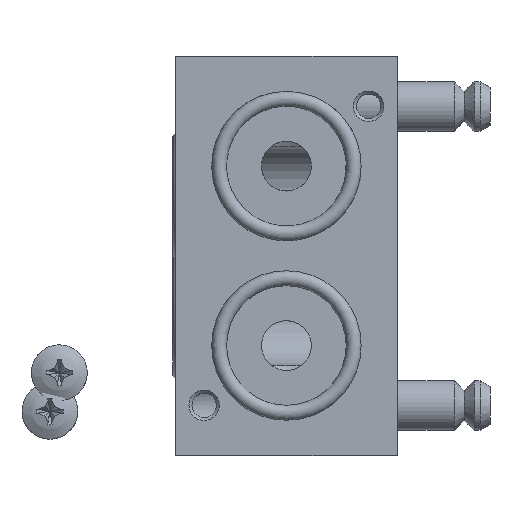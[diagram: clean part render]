
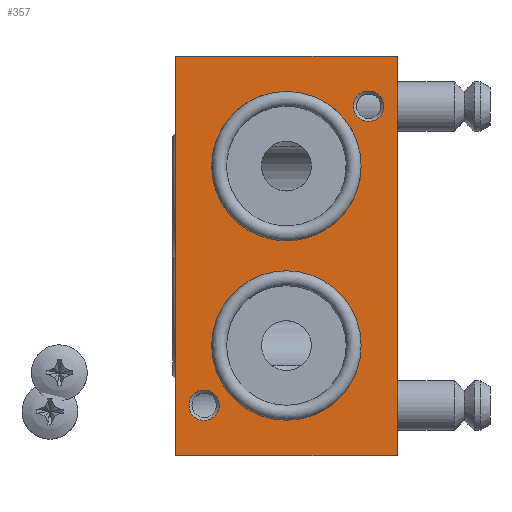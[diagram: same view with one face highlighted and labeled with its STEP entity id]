
A CAD part, top view. The second image highlights one B-rep face of the part: STEP entity #357.
In plain terms, the highlighted planar face has unit normal (0, 0, 1).
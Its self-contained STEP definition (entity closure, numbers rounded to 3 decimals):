
#333 = EDGE_CURVE( '    LINE', #722, #718, #723, .T. );
#357 = ADVANCED_FACE( '    FACE', ( #759, #760, #761, #762, #763 ), #764, .F. );
#368 = EDGE_CURVE( '     ARC', #784, #784, #785, .T. );
#460 = EDGE_CURVE( '     ARC', #936, #936, #937, .T. );
#543 = EDGE_CURVE( '    LINE', #793, #722, #1070, .T. );
#551 = EDGE_CURVE( '    LINE', #718, #999, #1081, .T. );
#606 = EDGE_CURVE( '    LINE', #999, #793, #1167, .T. );
#718 = VERTEX_POINT( '', #1242 );
#722 = VERTEX_POINT( '', #1248 );
#723 = LINE( '', #1249, #1250 );
#759 = FACE_BOUND( '', #1294, .T. );
#760 = FACE_BOUND( '', #1295, .T. );
#761 = FACE_OUTER_BOUND( '', #1296, .T. );
#762 = FACE_BOUND( '', #1297, .T. );
#763 = FACE_BOUND( '', #1298, .T. );
#764 = PLANE( '', #1299 );
#784 = VERTEX_POINT( '', #1324 );
#785 = CIRCLE( '', #1325, 7.5 );
#793 = VERTEX_POINT( '', #1336 );
#936 = VERTEX_POINT( '', #1602 );
#937 = CIRCLE( '', #1603, 7.5 );
#999 = VERTEX_POINT( '', #1677 );
#1070 = LINE( '', #1882, #1883 );
#1081 = LINE( '', #1906, #1907 );
#1167 = LINE( '', #2057, #2058 );
#1242 = CARTESIAN_POINT( '', ( 0.125, 19., -16. ) );
#1248 = CARTESIAN_POINT( '', ( -22.125, 19., -16. ) );
#1249 = CARTESIAN_POINT( '', ( -22.125, 19., -16. ) );
#1250 = VECTOR( '', #2194, 1000. );
#1294 = EDGE_LOOP( '', ( #2244 ) );
#1295 = EDGE_LOOP( '', ( #2245 ) );
#1296 = EDGE_LOOP( '', ( #2246, #2247, #2248, #2249 ) );
#1297 = EDGE_LOOP( '', ( #2250 ) );
#1298 = EDGE_LOOP( '', ( #2251 ) );
#1299 = AXIS2_PLACEMENT_3D( '', #2252, #2253, #2254 );
#1324 = CARTESIAN_POINT( '', ( -18.5, 8., -16. ) );
#1325 = AXIS2_PLACEMENT_3D( '', #2277, #2278, #2279 );
#1336 = CARTESIAN_POINT( '', ( -22.125, -21., -16. ) );
#1602 = CARTESIAN_POINT( '', ( -18.5, -10., -16. ) );
#1603 = AXIS2_PLACEMENT_3D( '', #2491, #2492, #2493 );
#1677 = CARTESIAN_POINT( '', ( 0.125, -21., -16. ) );
#1882 = CARTESIAN_POINT( '', ( -22.125, -21., -16. ) );
#1883 = VECTOR( '', #2690, 1000. );
#1906 = CARTESIAN_POINT( '', ( 0.125, 19., -16. ) );
#1907 = VECTOR( '', #2700, 1000. );
#2057 = CARTESIAN_POINT( '', ( 0.125, -21., -16. ) );
#2058 = VECTOR( '', #2819, 1000. );
#2194 = DIRECTION( '', ( 1., 0., 0. ) );
#2244 = ORIENTED_EDGE( '', *, *, #2913, .T. );
#2245 = ORIENTED_EDGE( '', *, *, #2914, .T. );
#2246 = ORIENTED_EDGE( '', *, *, #551, .F. );
#2247 = ORIENTED_EDGE( '', *, *, #333, .F. );
#2248 = ORIENTED_EDGE( '', *, *, #543, .F. );
#2249 = ORIENTED_EDGE( '', *, *, #606, .F. );
#2250 = ORIENTED_EDGE( '', *, *, #460, .T. );
#2251 = ORIENTED_EDGE( '', *, *, #368, .T. );
#2252 = CARTESIAN_POINT( '', ( 0.125, -21., -16. ) );
#2253 = DIRECTION( '', ( 0., 0., -1. ) );
#2254 = DIRECTION( '', ( -1., 0., 0. ) );
#2277 = CARTESIAN_POINT( '', ( -11., 8., -16. ) );
#2278 = DIRECTION( '', ( 0., 0., -1. ) );
#2279 = DIRECTION( '', ( -1., 0., 0. ) );
#2491 = CARTESIAN_POINT( '', ( -11., -10., -16. ) );
#2492 = DIRECTION( '', ( 0., 0., -1. ) );
#2493 = DIRECTION( '', ( -1., 0., 0. ) );
#2690 = DIRECTION( '', ( 0., 1., 0. ) );
#2700 = DIRECTION( '', ( 0., -1., 0. ) );
#2819 = DIRECTION( '', ( -1., 0., 0. ) );
#2913 = EDGE_CURVE( '', #3104, #3104, #3105, .T. );
#2914 = EDGE_CURVE( '', #3106, #3106, #3107, .T. );
#3104 = VERTEX_POINT( '', #3366 );
#3105 = CIRCLE( '', #3367, 1.53 );
#3106 = VERTEX_POINT( '', #3368 );
#3107 = CIRCLE( '', #3369, 1.53 );
#3366 = CARTESIAN_POINT( '', ( -4.28, 14., -16. ) );
#3367 = AXIS2_PLACEMENT_3D( '', #3639, #3640, #3641 );
#3368 = CARTESIAN_POINT( '', ( -20.78, -16., -16. ) );
#3369 = AXIS2_PLACEMENT_3D( '', #3642, #3643, #3644 );
#3639 = CARTESIAN_POINT( '', ( -2.75, 14., -16. ) );
#3640 = DIRECTION( '', ( 0., 0., -1. ) );
#3641 = DIRECTION( '', ( -1., 0., 0. ) );
#3642 = CARTESIAN_POINT( '', ( -19.25, -16., -16. ) );
#3643 = DIRECTION( '', ( 0., 0., -1. ) );
#3644 = DIRECTION( '', ( -1., 0., 0. ) );
